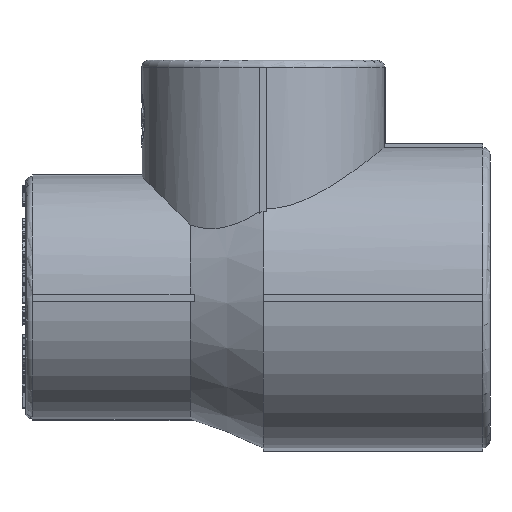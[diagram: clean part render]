
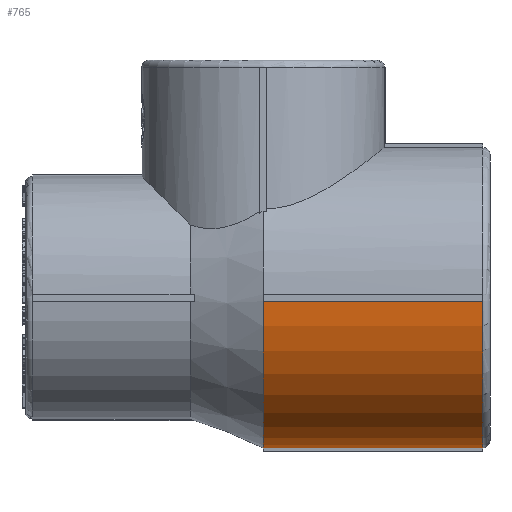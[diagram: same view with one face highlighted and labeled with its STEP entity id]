
A CAD part, left-side view. The second image highlights one B-rep face of the part: STEP entity #765.
In plain terms, the highlighted cylindrical face has radius 21.35 mm (diameter 42.7 mm), a partial arc.
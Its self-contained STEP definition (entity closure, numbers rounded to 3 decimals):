
#765=ADVANCED_FACE('',(#5910),#5912,.T.);
#5910=FACE_BOUND('',#5911,.T.);
#5911=EDGE_LOOP('',(#14555,#14556,#14557,#14558));
#5912=CYLINDRICAL_SURFACE('',#5913,21.35);
#5913=AXIS2_PLACEMENT_3D('',#5914,#5915,#5916);
#5914=CARTESIAN_POINT('',(0.,0.,0.));
#5915=DIRECTION('',(0.,-1.,0.));
#5916=DIRECTION('',(1.,0.,0.));
#14555=ORIENTED_EDGE('',*,*,#20275,.F.);
#14556=ORIENTED_EDGE('',*,*,#20276,.F.);
#14557=ORIENTED_EDGE('',*,*,#20277,.F.);
#14558=ORIENTED_EDGE('',*,*,#20236,.F.);
#20236=EDGE_CURVE('',#24988,#24990,#24991,.F.);
#20275=EDGE_CURVE('',#25053,#24988,#25054,.F.);
#20276=EDGE_CURVE('',#25055,#25053,#25056,.T.);
#20277=EDGE_CURVE('',#24990,#25055,#25057,.T.);
#24988=VERTEX_POINT('',#34898);
#24990=VERTEX_POINT('',#34903);
#24991=CIRCLE('',#34904,21.35);
#25053=VERTEX_POINT('',#35359);
#25054=LINE('',#35360,#35361);
#25055=VERTEX_POINT('',#35363);
#25056=CIRCLE('',#35364,21.35);
#25057=LINE('',#35368,#35369);
#34898=CARTESIAN_POINT('',(-0.5,0.,-21.344));
#34903=CARTESIAN_POINT('',(-21.344,0.,-0.5));
#34904=AXIS2_PLACEMENT_3D('',#34905,#34906,#34907);
#34905=CARTESIAN_POINT('',(0.,0.,0.));
#34906=DIRECTION('',(0.,-1.,0.));
#34907=DIRECTION('',(-1.,0.,-0.023));
#35359=CARTESIAN_POINT('',(-0.5,-31.25,-21.344));
#35360=CARTESIAN_POINT('',(-0.5,0.,-21.344));
#35361=VECTOR('',#35362,1.);
#35362=DIRECTION('',(0.,-1.,0.));
#35363=CARTESIAN_POINT('',(-21.344,-31.25,-0.5));
#35364=AXIS2_PLACEMENT_3D('',#35365,#35366,#35367);
#35365=CARTESIAN_POINT('',(0.,-31.25,0.));
#35366=DIRECTION('',(0.,-1.,0.));
#35367=DIRECTION('',(-1.,0.,-0.023));
#35368=CARTESIAN_POINT('',(-21.344,0.,-0.5));
#35369=VECTOR('',#35370,1.);
#35370=DIRECTION('',(0.,-1.,0.));
